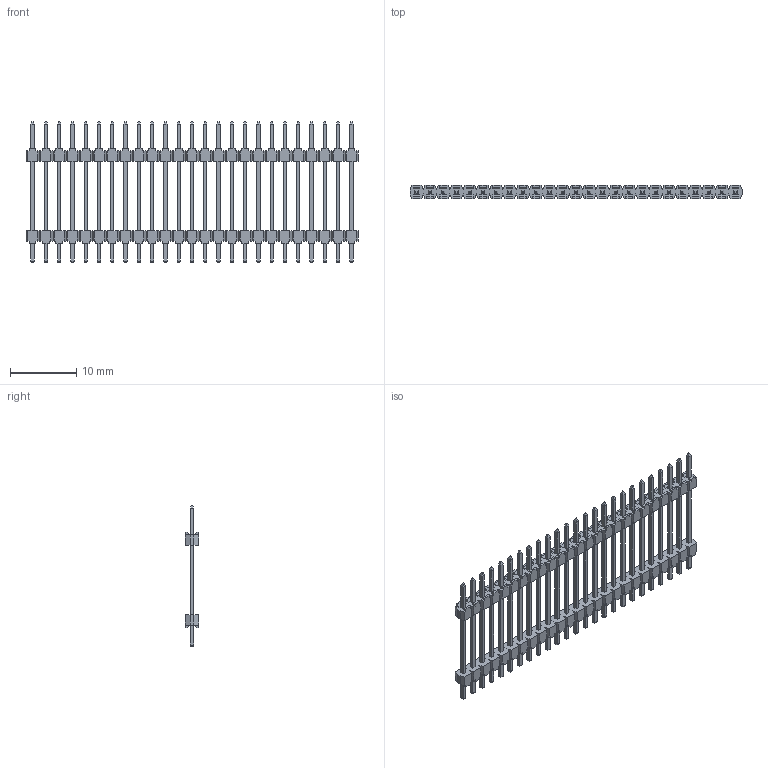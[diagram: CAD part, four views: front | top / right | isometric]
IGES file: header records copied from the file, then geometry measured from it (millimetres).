
Global section: file name: N:\GOLF_VI_2mm_UGII\9514XX_901XX06_AR\951425-9012506-AR.igs; native system: NX V3.0; preprocessor: UGS NX IGES V4.0; date: 20070314.114404; units: millimetre
Bounding box: 50 x 2 x 21.2 mm (x, y, z)
Surface area: 1813.5 mm2 (no closed solid volume)
Topology: 0 solids, 0 shells, 1258 faces, 6825 edges, 6825 vertices
Faces by surface type: bspline 1258
